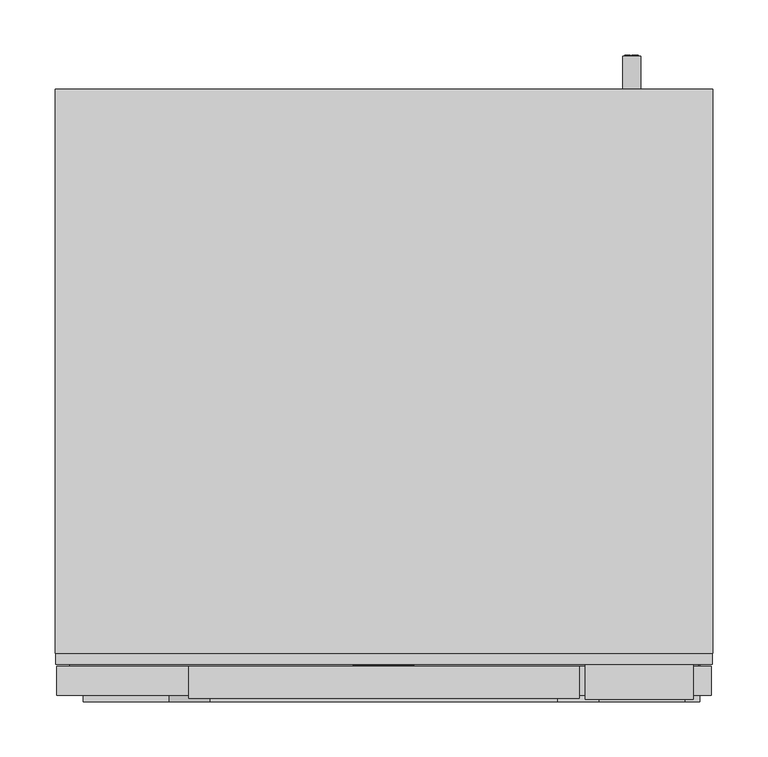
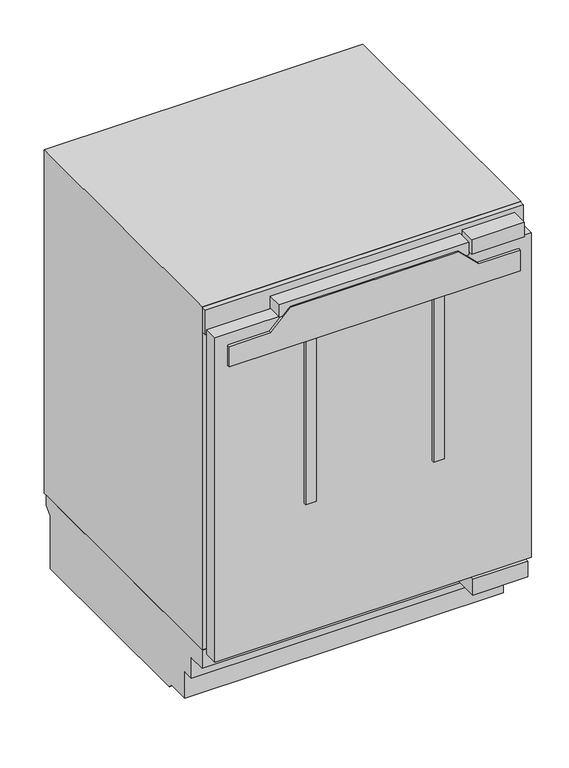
"""IFC4 building model written with IfcOpenShell, lengths in millimetres: proxy geometry, 12519110_EU1_KU7015D : 36701510_EU1_12519110_KU7015D."""

from ifc_helpers import new_model, si_unit, point, frame, frame_2d, origin, origin_with_axes, place, context, project, spatial, polyline, circle_curve, ellipse_curve, trimmed, segment, composite_curve, outline, extrude, faceted_brep, source, transform, mapped, element, save
from ifc_brep_helpers import plane_surface, cylinder_surface, revolved_surface, extruded_surface, advanced_brep


def specialty_equipment_9a1d0be2(model_context):
    return source(origin(), model_context, "Body", "SolidModel", [
        extrude(outline(polyline([(795.9349293, -28.017), (795.9349293, -26.928), (789.9139293, -26.928), (789.9139293, -28.017), (788.4019293, -28.017), (788.4019293, -24.057), (789.9139293, -24.057), (789.9139293, -25.137), (793.7360541, -25.137), (788.4019293, -21.114), (793.8421516, -17.073), (789.9139293, -17.073), (789.9139293, -18.18), (788.4019293, -18.18), (788.4019293, -10.998), (789.9139293, -10.998), (789.9139293, -12.141), (795.9349293, -12.141), (795.9349293, -10.998), (797.4019293, -10.998), (797.4019293, -16.479), (794.0269293, -19.107), (797.4019293, -21.744), (797.4019293, -28.017), (795.9349293, -28.017)])), frame((0.0, 33.1, 0.0), z_axis=(0.0, 1.0, 0.0), x_axis=(0.0, 0.0, 1.0)), (0.0, 0.0, 1.0), 1.0),
        extrude(outline(polyline([(795.9349293, 8.505), (795.9349293, 9.585), (789.9139293, 9.585), (789.9139293, 8.505), (788.4019293, 8.505), (788.4019293, 15.804), (789.9139293, 15.804), (789.9139293, 14.697), (797.4019293, 14.697), (797.4019293, 8.505), (795.9349293, 8.505)])), frame((0.0, 33.1, 0.0), z_axis=(0.0, 1.0, 0.0), x_axis=(0.0, 0.0, 1.0)), (0.0, 0.0, 1.0), 1.0),
        extrude(outline(polyline([(796.8709293, -7.857), (795.4129293, -7.173), (796.8349293, -4.122), (798.2929293, -4.797), (796.8709293, -7.857)])), frame((0.0, 33.1, 0.0), z_axis=(0.0, 1.0, 0.0), x_axis=(0.0, 0.0, 1.0)), (0.0, 0.0, 1.0), 1.0),
        extrude(outline(polyline([(795.2149293, -10.08), (793.6039293, -10.08), (793.6039293, -9.009), (789.9139293, -9.009), (789.9139293, -10.08), (788.4019293, -10.08), (788.4019293, -2.979), (789.9139293, -2.979), (789.9139293, -4.023), (795.2149293, -4.023), (795.2149293, -10.08)])), frame((0.0, 33.1, 0.0), z_axis=(0.0, 1.0, 0.0), x_axis=(0.0, 0.0, 1.0)), (0.0, 0.0, 1.0), 1.0),
        advanced_brep(
        [(1.98, 33.1, 790.5349293), (1.98, 33.1, 791.4439293), (8.001, 33.1, 791.4439293), (-2.475, 33.1, 791.4439293), (0.0, 33.1, 788.4019293), (7.848, 33.1, 790.5349293), (5.13, 33.1, 790.5349293), (2.988, 33.1, 789.5269293), (1.98, 33.1, 792.5959293), (1.98, 33.1, 793.5769293), (3.519, 33.1, 793.5769293), (3.519, 33.1, 792.5959293), (1.98, 34.1, 790.5349293), (2.988, 34.1, 789.5269293), (5.13, 34.1, 790.5349293), (7.848, 34.1, 790.5349293), (0.0, 34.1, 788.4019293), (-2.475, 34.1, 791.4439293), (8.001, 34.1, 791.4439293), (1.98, 34.1, 791.4439293), (1.98, 34.1, 792.5959293), (3.519, 34.1, 792.5959293), (3.519, 34.1, 793.5769293), (1.98, 34.1, 793.5769293)],
        [
            (0, 1),
            (1, 2),
            (2, 3, ellipse_curve(frame((2.763, 33.1, 791.4439293), z_axis=(0.0, -1.0, 0.0), x_axis=(-1.0, 0.0, 0.0)), 5.238, 4.329)),
            (3, 4, circle_curve(frame((1.0080491, 33.1, 791.7499293), z_axis=(0.0, -1.0, 0.0), x_axis=(0.0, 0.0, -1.0)), 3.4964649)),
            (4, 5, circle_curve(frame((2.6581428, 33.1, 794.1259293), z_axis=(0.0, -1.0, 0.0), x_axis=(0.0, 0.0, -1.0)), 6.3110933)),
            (5, 6),
            (6, 7, circle_curve(frame((3.4279412, 33.1, 791.3719293), z_axis=(0.0, 1.0, 0.0), x_axis=(0.0, 0.0, -1.0)), 1.896727)),
            (7, 0, circle_curve(frame((2.988, 33.1, 790.5349293), z_axis=(0.0, 1.0, 0.0), x_axis=(0.0, 0.0, -1.0)), 1.008)),
            (8, 9),
            (9, 10, circle_curve(frame((2.7495, 33.1, 793.5769293), z_axis=(0.0, 1.0, 0.0), x_axis=(0.0, 0.0, -1.0)), 0.7695)),
            (10, 11),
            (11, 8),
            (12, 13, circle_curve(frame((2.988, 34.1, 790.5349293), z_axis=(0.0, -1.0, 0.0), x_axis=(0.0, 0.0, -1.0)), 1.008)),
            (13, 14, circle_curve(frame((3.4279412, 34.1, 791.3719293), z_axis=(0.0, -1.0, 0.0), x_axis=(0.0, 0.0, -1.0)), 1.896727)),
            (14, 15),
            (15, 16, circle_curve(frame((2.6581428, 34.1, 794.1259293), z_axis=(0.0, 1.0, 0.0), x_axis=(0.0, 0.0, -1.0)), 6.3110933)),
            (16, 17, circle_curve(frame((1.0080491, 34.1, 791.7499293), z_axis=(0.0, 1.0, 0.0), x_axis=(0.0, 0.0, -1.0)), 3.4964649)),
            (17, 18, ellipse_curve(frame((2.763, 34.1, 791.4439293), z_axis=(0.0, 1.0, 0.0), x_axis=(-1.0, 0.0, 0.0)), 5.238, 4.329)),
            (18, 19),
            (19, 12),
            (20, 21),
            (21, 22),
            (22, 23, circle_curve(frame((2.7495, 34.1, 793.5769293), z_axis=(0.0, -1.0, 0.0), x_axis=(0.0, 0.0, -1.0)), 0.7695)),
            (23, 20),
            (0, 12),
            (19, 1),
            (18, 2),
            (5, 15),
            (14, 6),
            (17, 3),
            (13, 7),
            (16, 4),
            (8, 20),
            (23, 9),
            (22, 10),
            (21, 11),
        ],
        [
            plane_surface(frame((1.98, 33.1, 791.4439293), z_axis=(0.0, -1.0, 0.0), x_axis=(0.0, 0.0, 1.0))),
            plane_surface(frame((1.98, 34.1, 791.4439293), z_axis=(0.0, 1.0, 0.0), x_axis=(0.0, 0.0, -1.0))),
            plane_surface(frame((1.98, 33.1, 790.5349293), z_axis=(1.0, 0.0, 0.0), x_axis=(0.0, 1.0, 0.0))),
            plane_surface(frame((1.98, 33.1, 791.4439293), z_axis=(0.0, 0.0, -1.0), x_axis=(0.0, 1.0, 0.0))),
            plane_surface(frame((7.848, 33.1, 790.5349293), z_axis=(0.0, 0.0, 1.0), x_axis=(0.0, 1.0, 0.0))),
            extruded_surface(trimmed(ellipse_curve(frame((2.763, 35.1, 791.4439293), z_axis=(0.0, -1.0, 0.0), x_axis=(-1.0, 0.0, 0.0)), 5.238, 4.329), [point((8.001, 35.1, 791.4439293))], [point((-2.475, 35.1, 791.4439293))], True, "CARTESIAN"), (0.0, -1.0, 0.0), 1.0),
            revolved_surface(polyline([(3.4279412, 34.1, 789.4752023), (3.4279412, 33.1, 789.4752023)]), (3.4279412, 34.1, 791.3719293), (0.0, 1.0, 0.0)),
            revolved_surface(polyline([(2.988, 34.1, 789.5269293), (2.988, 33.1, 789.5269293)]), (2.988, 34.1, 790.5349293), (0.0, 1.0, 0.0)),
            cylinder_surface(frame((1.0080491, 34.1, 791.7499293), z_axis=(0.0, -1.0, 0.0), x_axis=(0.0, 0.0, -1.0)), 3.4964649),
            cylinder_surface(frame((2.6581428, 34.1, 794.1259293), z_axis=(0.0, -1.0, 0.0), x_axis=(0.0, 0.0, -1.0)), 6.3110933),
            plane_surface(frame((1.98, 33.1, 792.5959293), z_axis=(1.0, 0.0, 0.0), x_axis=(0.0, 1.0, 0.0))),
            revolved_surface(polyline([(2.7495, 34.1, 792.8074293), (2.7495, 33.1, 792.8074293)]), (2.7495, 34.1, 793.5769293), (0.0, 1.0, 0.0)),
            plane_surface(frame((3.519, 33.1, 793.5769293), z_axis=(-1.0, 0.0, 0.0), x_axis=(0.0, 1.0, 0.0))),
            plane_surface(frame((3.519, 33.1, 792.5959293), z_axis=(0.0, 0.0, 1.0), x_axis=(0.0, 1.0, 0.0))),
        ],
        [
            (0, [[1, 2, 3, 4, 5, 6, 7, 8], [9, 10, 11, 12]]),
            (1, [[13, 14, 15, 16, 17, 18, 19, 20], [21, 22, 23, 24]]),
            (2, [[-1, 25, -20, 26]]),
            (3, [[-2, -26, -19, 27]]),
            (4, [[-6, 28, -15, 29]]),
            (5, [[-3, -27, -18, 30]]),
            (6, [[-7, -29, -14, 31]]),
            (7, [[-8, -31, -13, -25]]),
            (8, [[-4, -30, -17, 32]]),
            (9, [[-5, -32, -16, -28]]),
            (10, [[-9, 33, -24, 34]]),
            (11, [[-10, -34, -23, 35]]),
            (12, [[-11, -35, -22, 36]]),
            (13, [[-12, -36, -21, -33]]),
        ],
    ),
        advanced_brep(
        [(20.763, 33.1, 790.5349293), (20.763, 33.1, 791.4439293), (26.784, 33.1, 791.4439293), (16.308, 33.1, 791.4439293), (18.783, 33.1, 788.4019293), (26.631, 33.1, 790.5349293), (23.913, 33.1, 790.5349293), (21.771, 33.1, 789.5269293), (20.763, 33.1, 792.5959293), (20.763, 33.1, 793.5769293), (22.302, 33.1, 793.5769293), (22.302, 33.1, 792.5959293), (20.763, 34.1, 790.5349293), (21.771, 34.1, 789.5269293), (23.913, 34.1, 790.5349293), (26.631, 34.1, 790.5349293), (18.783, 34.1, 788.4019293), (16.308, 34.1, 791.4439293), (26.784, 34.1, 791.4439293), (20.763, 34.1, 791.4439293), (20.763, 34.1, 792.5959293), (22.302, 34.1, 792.5959293), (22.302, 34.1, 793.5769293), (20.763, 34.1, 793.5769293)],
        [
            (0, 1),
            (1, 2),
            (2, 3, ellipse_curve(frame((21.546, 33.1, 791.4439293), z_axis=(0.0, -1.0, 0.0), x_axis=(-1.0, 0.0, 0.0)), 5.238, 4.329)),
            (3, 4, circle_curve(frame((19.7910491, 33.1, 791.7499293), z_axis=(0.0, -1.0, 0.0), x_axis=(0.0, 0.0, -1.0)), 3.4964649)),
            (4, 5, circle_curve(frame((21.4411428, 33.1, 794.1259293), z_axis=(0.0, -1.0, 0.0), x_axis=(0.0, 0.0, -1.0)), 6.3110933)),
            (5, 6),
            (6, 7, circle_curve(frame((22.2109412, 33.1, 791.3719293), z_axis=(0.0, 1.0, 0.0), x_axis=(0.0, 0.0, -1.0)), 1.896727)),
            (7, 0, circle_curve(frame((21.771, 33.1, 790.5349293), z_axis=(0.0, 1.0, 0.0), x_axis=(0.0, 0.0, -1.0)), 1.008)),
            (8, 9),
            (9, 10, circle_curve(frame((21.5325, 33.1, 793.5769293), z_axis=(0.0, 1.0, 0.0), x_axis=(0.0, 0.0, -1.0)), 0.7695)),
            (10, 11),
            (11, 8),
            (12, 13, circle_curve(frame((21.771, 34.1, 790.5349293), z_axis=(0.0, -1.0, 0.0), x_axis=(0.0, 0.0, -1.0)), 1.008)),
            (13, 14, circle_curve(frame((22.2109412, 34.1, 791.3719293), z_axis=(0.0, -1.0, 0.0), x_axis=(0.0, 0.0, -1.0)), 1.896727)),
            (14, 15),
            (15, 16, circle_curve(frame((21.4411428, 34.1, 794.1259293), z_axis=(0.0, 1.0, 0.0), x_axis=(0.0, 0.0, -1.0)), 6.3110933)),
            (16, 17, circle_curve(frame((19.7910491, 34.1, 791.7499293), z_axis=(0.0, 1.0, 0.0), x_axis=(0.0, 0.0, -1.0)), 3.4964649)),
            (17, 18, ellipse_curve(frame((21.546, 34.1, 791.4439293), z_axis=(0.0, 1.0, 0.0), x_axis=(-1.0, 0.0, 0.0)), 5.238, 4.329)),
            (18, 19),
            (19, 12),
            (20, 21),
            (21, 22),
            (22, 23, circle_curve(frame((21.5325, 34.1, 793.5769293), z_axis=(0.0, -1.0, 0.0), x_axis=(0.0, 0.0, -1.0)), 0.7695)),
            (23, 20),
            (0, 12),
            (19, 1),
            (18, 2),
            (5, 15),
            (14, 6),
            (17, 3),
            (13, 7),
            (16, 4),
            (8, 20),
            (23, 9),
            (22, 10),
            (21, 11),
        ],
        [
            plane_surface(frame((20.763, 33.1, 791.4439293), z_axis=(0.0, -1.0, 0.0), x_axis=(0.0, 0.0, 1.0))),
            plane_surface(frame((20.763, 34.1, 791.4439293), z_axis=(0.0, 1.0, 0.0), x_axis=(0.0, 0.0, -1.0))),
            plane_surface(frame((20.763, 33.1, 790.5349293), z_axis=(1.0, 0.0, 0.0), x_axis=(0.0, 1.0, 0.0))),
            plane_surface(frame((20.763, 33.1, 791.4439293), z_axis=(0.0, 0.0, -1.0), x_axis=(0.0, 1.0, 0.0))),
            plane_surface(frame((26.631, 33.1, 790.5349293), z_axis=(0.0, 0.0, 1.0), x_axis=(0.0, 1.0, 0.0))),
            extruded_surface(trimmed(ellipse_curve(frame((21.546, 35.1, 791.4439293), z_axis=(0.0, -1.0, 0.0), x_axis=(-1.0, 0.0, 0.0)), 5.238, 4.329), [point((26.784, 35.1, 791.4439293))], [point((16.308, 35.1, 791.4439293))], True, "CARTESIAN"), (0.0, -1.0, 0.0), 1.0),
            revolved_surface(polyline([(22.2109412, 34.1, 789.4752023), (22.2109412, 33.1, 789.4752023)]), (22.2109412, 34.1, 791.3719293), (0.0, 1.0, 0.0)),
            revolved_surface(polyline([(21.771, 34.1, 789.5269293), (21.771, 33.1, 789.5269293)]), (21.771, 34.1, 790.5349293), (0.0, 1.0, 0.0)),
            cylinder_surface(frame((19.7910491, 34.1, 791.7499293), z_axis=(0.0, -1.0, 0.0), x_axis=(0.0, 0.0, -1.0)), 3.4964649),
            cylinder_surface(frame((21.4411428, 34.1, 794.1259293), z_axis=(0.0, -1.0, 0.0), x_axis=(0.0, 0.0, -1.0)), 6.3110933),
            plane_surface(frame((20.763, 33.1, 792.5959293), z_axis=(1.0, 0.0, 0.0), x_axis=(0.0, 1.0, 0.0))),
            revolved_surface(polyline([(21.5325, 34.1, 792.8074293), (21.5325, 33.1, 792.8074293)]), (21.5325, 34.1, 793.5769293), (0.0, 1.0, 0.0)),
            plane_surface(frame((22.302, 33.1, 793.5769293), z_axis=(-1.0, 0.0, 0.0), x_axis=(0.0, 1.0, 0.0))),
            plane_surface(frame((22.302, 33.1, 792.5959293), z_axis=(0.0, 0.0, 1.0), x_axis=(0.0, 1.0, 0.0))),
        ],
        [
            (0, [[1, 2, 3, 4, 5, 6, 7, 8], [9, 10, 11, 12]]),
            (1, [[13, 14, 15, 16, 17, 18, 19, 20], [21, 22, 23, 24]]),
            (2, [[-1, 25, -20, 26]]),
            (3, [[-2, -26, -19, 27]]),
            (4, [[-6, 28, -15, 29]]),
            (5, [[-3, -27, -18, 30]]),
            (6, [[-7, -29, -14, 31]]),
            (7, [[-8, -31, -13, -25]]),
            (8, [[-4, -30, -17, 32]]),
            (9, [[-5, -32, -16, -28]]),
            (10, [[-9, 33, -24, 34]]),
            (11, [[-10, -34, -23, 35]]),
            (12, [[-11, -35, -22, 36]]),
            (13, [[-12, -36, -21, -33]]),
        ],
    ),
        extrude(outline(polyline([(298.0, 34.0937347), (-298.0, 34.0937347), (-298.0, 44.0), (298.0, 44.0), (298.0, 34.0937347)])), frame((0.0, 0.0, 768.7051238), z_axis=(0.0, 0.0, 1.0), x_axis=(1.0, 0.0, 0.0)), (0.0, 0.0, 1.0), 48.9938508),
        faceted_brep([(-298.5, 550.1, 137.8999939), (-298.5, 550.1, 117.6051112), (-298.5, 537.6, 105.1051112), (-298.5, 537.6, 0.0), (-298.5, 150.9682763, 0.0), (-298.5, 142.6506717, 8.3176046), (-298.5, 100.0, 8.3176046), (-298.5, 100.0, 60.7725754), (-298.5, 79.0216446, 60.7725754), (-298.5, 79.0216446, 101.8184894), (-298.5, 44.0, 101.8184894), (-298.5, 44.0, 137.8999939), (298.5, 550.1, 137.8999939), (298.5, 44.0, 137.8999939), (298.5, 44.0, 101.8184894), (298.5, 79.0216446, 101.8184894), (298.5, 79.0216446, 60.7725754), (298.5, 100.0, 60.7725754), (298.5, 100.0, 8.3176046), (298.5, 142.6506717, 8.3176046), (298.5, 150.9682763, 0.0), (298.5, 537.6, 0.0), (298.5, 537.6, 105.1051112), (298.5, 550.1, 117.6051112), (296.7000122, 463.8596389, 0.0), (256.5957336, 463.8596389, 0.0), (256.5957336, 399.1975098, 0.0), (296.7000122, 399.1975098, 0.0), (-296.7000122, 463.8596389, 0.0), (-296.7000122, 399.1975098, 0.0), (-256.5957336, 399.1975098, 0.0), (-256.5957336, 463.8596389, 0.0), (296.7000122, 463.8596389, 8.7371401), (296.7000122, 399.1975098, 8.7371401), (256.5957336, 399.1975098, 8.7371401), (256.5957336, 463.8596389, 8.7371401), (-296.7000122, 463.8596389, 8.7371401), (-256.5957336, 463.8596389, 8.7371401), (-256.5957336, 399.1975098, 8.7371401), (-296.7000122, 399.1975098, 8.7371401)], [[[0, 1, 2, 3, 4, 5, 6, 7, 8, 9, 10, 11]], [[12, 13, 14, 15, 16, 17, 18, 19, 20, 21, 22, 23]], [[0, 11, 13, 12]], [[11, 10, 14, 13]], [[10, 9, 15, 14]], [[9, 8, 16, 15]], [[8, 7, 17, 16]], [[7, 6, 18, 17]], [[6, 5, 19, 18]], [[5, 4, 20, 19]], [[4, 3, 21, 20], [24, 25, 26, 27], [28, 29, 30, 31]], [[3, 2, 22, 21]], [[2, 1, 23, 22]], [[1, 0, 12, 23]], [[32, 33, 34, 35]], [[36, 37, 38, 39]], [[32, 35, 25, 24]], [[35, 34, 26, 25]], [[34, 33, 27, 26]], [[33, 32, 24, 27]], [[36, 39, 29, 28]], [[39, 38, 30, 29]], [[38, 37, 31, 30]], [[37, 36, 28, 31]]]),
        faceted_brep([(298.5, 44.0, 819.0), (298.5, 44.0, 137.8999939), (298.5, 556.2, 137.8999939), (298.5, 556.2, 819.0), (-298.5, 44.0, 819.0), (-298.5, 556.2, 819.0), (-298.5, 556.2, 137.8999939), (-298.5, 44.0, 137.8999939), (263.0, 44.0, 719.0), (263.0, 44.0, 150.0), (-263.0, 44.0, 150.0), (-263.0, 44.0, 719.0), (263.0, 510.8638012, 150.0), (263.0, 510.8638012, 719.0), (-263.0, 510.8638012, 719.0), (-263.0, 510.8638012, 150.0)], [[[0, 1, 2, 3]], [[4, 5, 6, 7]], [[1, 0, 4, 7], [8, 9, 10, 11]], [[2, 1, 7, 6]], [[3, 2, 6, 5]], [[0, 3, 5, 4]], [[12, 13, 14, 15]], [[13, 12, 9, 8]], [[14, 13, 8, 11]], [[15, 14, 11, 10]], [[12, 15, 10, 9]]]),
        extrude(outline(polyline([(263.0, 510.8638012), (263.0, 339.3), (-263.0, 339.3), (-263.0, 510.8638012), (263.0, 510.8638012)])), frame((0.0, 0.0, 150.0), z_axis=(0.0, 0.0, 1.0), x_axis=(1.0, 0.0, 0.0)), (0.0, 0.0, 1.0), 71.8999939),
        extrude(outline(composite_curve([segment(trimmed(circle_curve(frame_2d((-270.8532135, 135.87603)), 15.7049948), [point((-286.5582083, 135.87603))], [point((-255.1482187, 135.87603))], False, "CARTESIAN"), True, "CONTINUOUS"), segment(trimmed(circle_curve(frame_2d((-270.8532135, 135.87603)), 15.7049948), [point((-255.1482187, 135.87603))], [point((-286.5582083, 135.87603))], False, "CARTESIAN"), True, "CONTINUOUS")], self_intersect=False)), origin_with_axes(), (0.0, 0.0, 1.0), 8.3176046),
        extrude(outline(composite_curve([segment(trimmed(circle_curve(frame_2d((270.8532135, 135.87603)), 15.7049948), [point((286.5582083, 135.87603))], [point((255.1482187, 135.87603))], False, "CARTESIAN"), True, "CONTINUOUS"), segment(trimmed(circle_curve(frame_2d((270.8532135, 135.87603)), 15.7049948), [point((255.1482187, 135.87603))], [point((286.5582083, 135.87603))], False, "CARTESIAN"), True, "CONTINUOUS")], self_intersect=False)), origin_with_axes(), (0.0, 0.0, 1.0), 8.3176046),
        extrude(outline(composite_curve([segment(trimmed(circle_curve(frame_2d((-275.822369, 437.7385329)), 16.0), [point((-291.822369, 437.7385329))], [point((-259.822369, 437.7385329))], False, "CARTESIAN"), True, "CONTINUOUS"), segment(trimmed(circle_curve(frame_2d((-275.822369, 437.7385329)), 16.0), [point((-259.822369, 437.7385329))], [point((-291.822369, 437.7385329))], False, "CARTESIAN"), True, "CONTINUOUS")], self_intersect=False)), origin_with_axes(), (0.0, 0.0, 1.0), 8.3176046),
        extrude(outline(composite_curve([segment(trimmed(circle_curve(frame_2d((275.822369, 437.7385329)), 16.0), [point((259.822369, 437.7385329))], [point((291.822369, 437.7385329))], False, "CARTESIAN"), True, "CONTINUOUS"), segment(trimmed(circle_curve(frame_2d((275.822369, 437.7385329)), 16.0), [point((291.822369, 437.7385329))], [point((259.822369, 437.7385329))], False, "CARTESIAN"), True, "CONTINUOUS")], self_intersect=False)), origin_with_axes(), (0.0, 0.0, 1.0), 8.3176046),
        extrude(outline(composite_curve([segment(trimmed(circle_curve(frame_2d((144.2460785, 224.8152695)), 8.0), [point((144.2460785, 216.8152695))], [point((144.2460785, 232.8152695))], False, "CARTESIAN"), True, "CONTINUOUS"), segment(trimmed(circle_curve(frame_2d((144.2460785, 224.8152695)), 8.0), [point((144.2460785, 232.8152695))], [point((144.2460785, 216.8152695))], False, "CARTESIAN"), True, "CONTINUOUS")], self_intersect=False)), frame((0.0, 556.2, 0.0), z_axis=(0.0, 1.0, 0.0), x_axis=(0.0, 0.0, 1.0)), (0.0, 0.0, 1.0), 30.0),
        extrude(outline(polyline([(140.2460785, 230.7170777), (148.2825833, 230.7170777), (148.2825833, 224.9408399), (147.2780202, 224.9408399), (147.2780202, 229.7125146), (144.8921828, 229.7125146), (144.8921828, 225.1919806), (143.8876197, 225.1919806), (143.8876197, 229.7125146), (141.2506416, 229.7125146), (141.2506416, 224.8152695), (140.2460785, 224.8152695), (140.2460785, 230.7170777)])), frame((0.0, 586.2, 0.0), z_axis=(0.0, 1.0, 0.0), x_axis=(0.0, 0.0, 1.0)), (0.0, 0.0, 1.0), 1.0),
        extrude(outline(polyline([(140.2460785, 223.3084248), (148.2825833, 223.3084248), (148.2825833, 222.3038617), (141.2506416, 222.3038617), (141.2506416, 218.2856093), (140.2460785, 218.2856093), (140.2460785, 223.3084248)])), frame((0.0, 586.2, 0.0), z_axis=(0.0, 1.0, 0.0), x_axis=(0.0, 0.0, 1.0)), (0.0, 0.0, 1.0), 1.0),
        extrude(outline(polyline([(280.7999573, 2.0229698), (182.5283813, 2.0229698), (182.5283813, 44.0), (280.7999573, 44.0), (280.7999573, 2.0229698)])), frame((0.0, 0.0, 780.0), z_axis=(0.0, 0.0, 1.0), x_axis=(1.0, 0.0, 0.0)), (0.0, 0.0, 1.0), 28.7067261),
        extrude(outline(polyline([(297.0, 6.0), (-297.0, 6.0), (-297.0, 32.0), (297.0, 32.0), (297.0, 6.0)])), frame((0.0, 0.0, 136.0), z_axis=(0.0, 0.0, 1.0), x_axis=(1.0, 0.0, 0.0)), (0.0, 0.0, 1.0), 644.0),
        extrude(outline(polyline([(285.0, 44.0), (285.0, 32.0), (-285.0, 32.0), (-285.0, 44.0), (285.0, 44.0)])), frame((0.0, 0.0, 148.5030441), z_axis=(0.0, 0.0, 1.0), x_axis=(1.0, 0.0, 0.0)), (0.0, 0.0, 1.0), 615.9969559),
        extrude(outline(polyline([(804.6210938, 177.3252429), (804.6210938, -177.3251393), (780.0, -177.3252429), (780.0, 177.3252429), (804.6210938, 177.3252429)])), frame((0.0, 3.0, 0.0), z_axis=(0.0, 1.0, 0.0), x_axis=(0.0, 0.0, 1.0)), (0.0, 0.0, 1.0), 29.0),
        extrude(outline(polyline([(286.7815857, 0.0), (183.3378415, 0.0), (183.3378415, 44.0), (286.7815857, 44.0), (286.7815857, 0.0)])), frame((0.0, 0.0, 104.8), z_axis=(0.0, 0.0, 1.0), x_axis=(1.0, 0.0, 0.0)), (0.0, 0.0, 1.0), 31.2),
        extrude(outline(polyline([(757.315066, -195.1876874), (757.315066, -272.9755319), (716.8499888, -272.9755319), (716.8499888, 272.9755319), (757.315066, 272.9755319), (757.315066, 195.1876874), (794.938205, 157.5645484), (794.938205, -157.5645484), (757.315066, -195.1876874)])), frame((0.0, 0.0, 0.0), z_axis=(0.0, 1.0, 0.0), x_axis=(0.0, 0.0, 1.0)), (0.0, 0.0, 1.0), 6.0),
        extrude(outline(polyline([(-110.0, 0.0), (-130.0, 0.0), (-130.0, 6.0), (-110.0, 6.0), (-110.0, 0.0)])), frame((0.0, 0.0, 394.1054382), z_axis=(0.0, 0.0, 1.0), x_axis=(1.0, 0.0, 0.0)), (0.0, 0.0, 1.0), 322.7445505),
        extrude(outline(polyline([(130.0, 0.0), (110.0, 0.0), (110.0, 6.0), (130.0, 6.0), (130.0, 0.0)])), frame((0.0, 0.0, 394.1054382), z_axis=(0.0, 0.0, 1.0), x_axis=(1.0, 0.0, 0.0)), (0.0, 0.0, 1.0), 322.7445505),
    ])


if __name__ == "__main__":
    model = new_model("IFC4")
    model_context = context("Model", 3, world=origin())
    ifc_project = project(units=[si_unit("LENGTHUNIT", "METRE", prefix="MILLI")], contexts=[model_context])
    site = spatial("IfcSite", under=ifc_project)
    building = spatial("IfcBuilding", under=site)
    placement = place(None, origin())
    specialty_equipment_shape = specialty_equipment_9a1d0be2(model_context)
    element("IfcBuildingElementProxy", 1, Name="12519110_EU1_KU7015D : 36701510_EU1_12519110_KU7015D", ObjectType="12519110_EU1_KU7015D : 36701510_EU1_12519110_KU7015D", at=placement, inside=building, context=model_context, shape_type="MappedRepresentation", body=[
        mapped(specialty_equipment_shape, transform((0.0, 0.0, 0.0), x_axis=(1.0, 0.0, 0.0), y_axis=(0.0, 1.0, 0.0), z_axis=(0.0, 0.0, 1.0))),
    ])
    save(model, "model.ifc")
